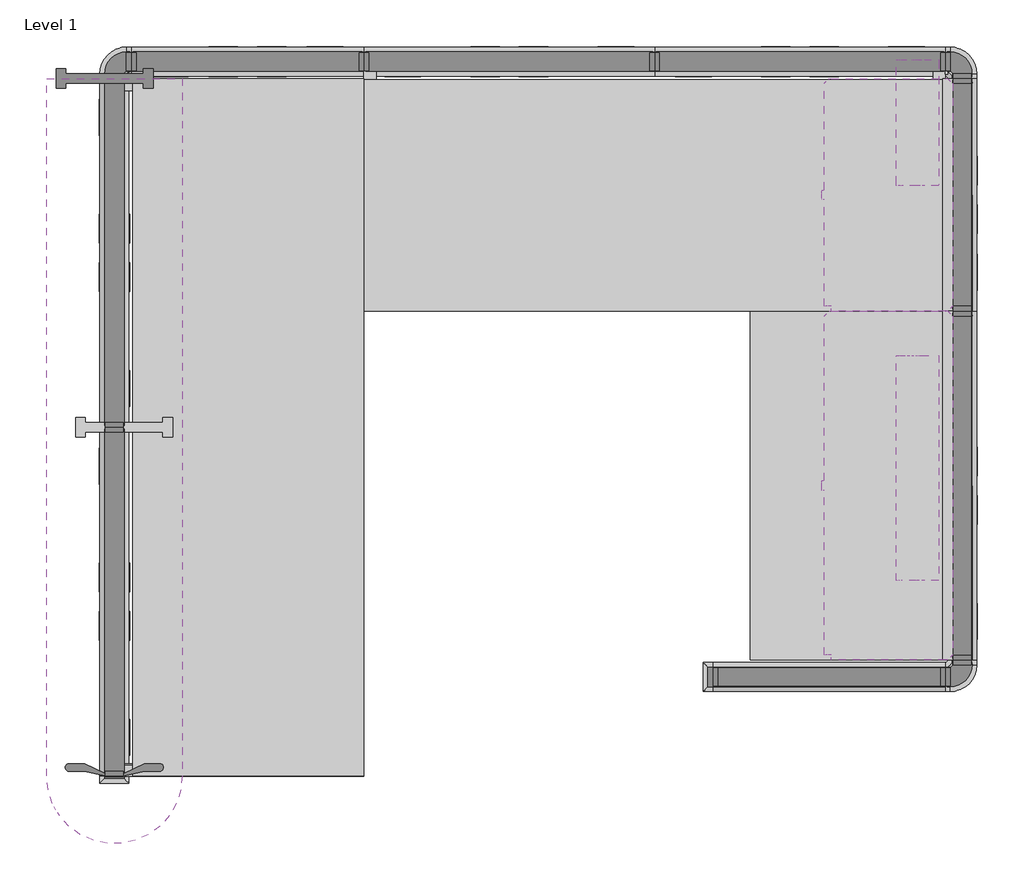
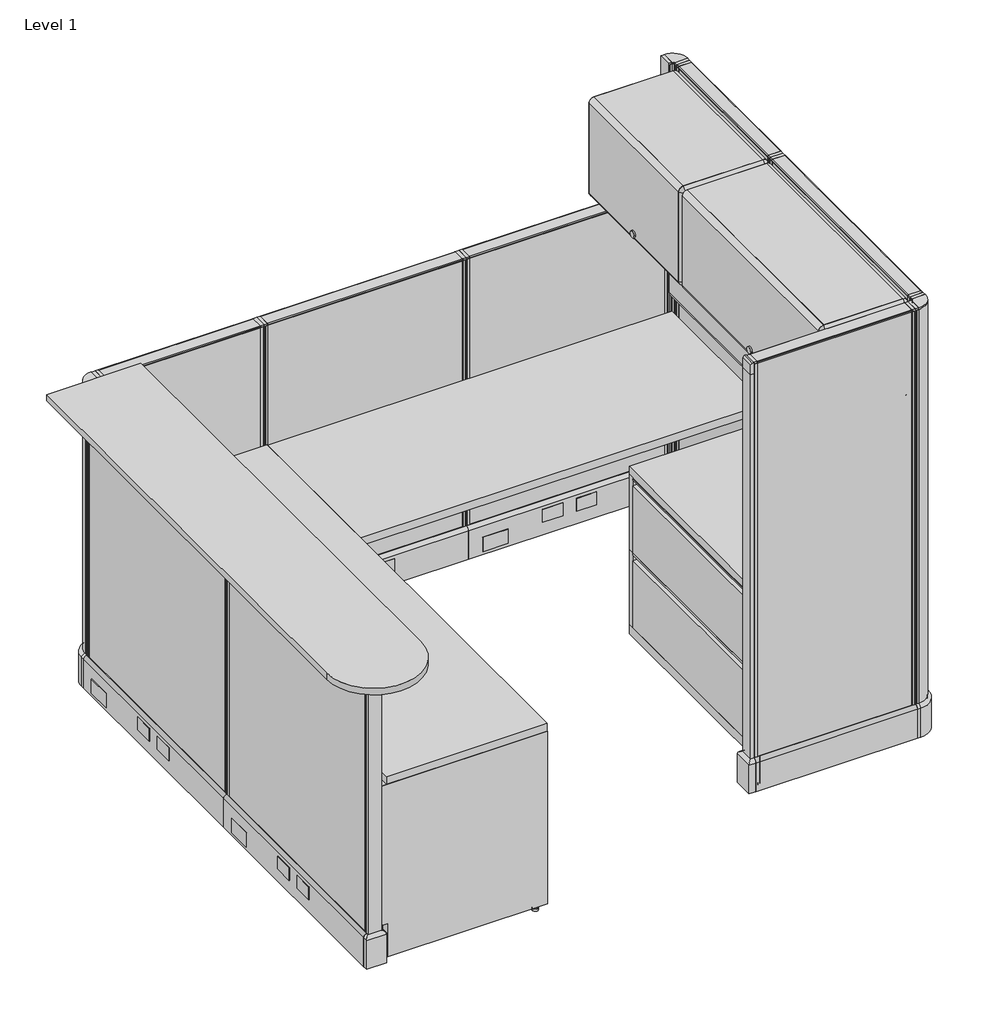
# One storey, incomplete: 27 furniture elements, 2 light fixtures.
"""IFC4 building model written with IfcOpenShell, lengths in millimetres."""

from ifc_helpers import new_model, si_unit, origin, place, context, project, spatial, transform, mapped, element, save
from components import furniture_84c54a78, furniture_aedcea9c, furniture_d4c83d08, furniture_e3a1ffe6, furniture_98713a82, furniture_8e6c5b72, furniture_457a0db2, furniture_a96273da, furniture_f3dbc57d, furniture_d2704b84, furniture_0d49a17f, furniture_54f79333, furniture_061b7ed1, furniture_2925ff6b, furniture_d54c757f, furniture_14b2469c, furniture_b7c7402d, furniture_d2009061, furniture_3c70095f, furniture_3045a4df, furniture_5c2546f9, furniture_ba981915, center_1fdd12aa, mid_end_35fd1d4e, light_fixture_0c34e72c, light_fixture_9998b344

model = new_model("IFC4")

# Units and contexts
model_context = context("Model", 3, world=origin())
ifc_project = project(units=[si_unit("LENGTHUNIT", "METRE", prefix="MILLI")], contexts=[model_context])

# Site, building, storey
site = spatial("IfcSite", under=ifc_project)
building = spatial("IfcBuilding", under=site)
storey = spatial("IfcBuildingStorey", under=building, Name="Level 1", Elevation=0.0)

# Furniture
placement = place(None, origin())
furniture_shape = furniture_84c54a78(model_context)
element("IfcFurniture", 1, ObjectType="HermanMiller_QuadrantFiling_G5111_MobilePedestal : 21-1/2\"H x 20\"D x 15\"W BF", at=placement, inside=storey, context=model_context, shape_type="MappedRepresentation", body=[
    mapped(furniture_shape, transform((337.6085008, -1568.4863268, 0.0), x_axis=(-3.6732051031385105e-06, 0.9999999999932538, 0.0), y_axis=(-0.9999999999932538, -3.6732051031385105e-06, 0.0), z_axis=(0.0, 0.0, 1.0))),
])
furniture_2_shape = furniture_aedcea9c(model_context)
element("IfcFurniture", 2, ObjectType="HermanMiller_ActionOffice_A1110_Hard-SurfacedPanelStandardBase : 47\"H x 24\"W-G", at=placement, inside=storey, context=model_context, shape_type="MappedRepresentation", body=[
    mapped(furniture_2_shape, transform((304.8, 43.9955412, 0.0), x_axis=(1.0, 0.0, 0.0), y_axis=(0.0, 1.0, 0.0), z_axis=(0.0, 0.0, 1.0))),
])
furniture_3_shape = furniture_d4c83d08(model_context)
element("IfcFurniture", 3, ObjectType="HermanMiller_ActionOffice_A1110_Hard-SurfacedPanelStandardBase : 47\"H x 30\"W-G", at=placement, inside=storey, context=model_context, shape_type="MappedRepresentation", body=[
    mapped(furniture_3_shape, transform((990.6, 43.9955412, 0.0), x_axis=(1.0, 0.0, 0.0), y_axis=(0.0, 1.0, 0.0), z_axis=(0.0, 0.0, 1.0))),
])
element("IfcFurniture", 4, ObjectType="HermanMiller_ActionOffice_A1110_Hard-SurfacedPanelStandardBase : 47\"H x 30\"W-G", at=placement, inside=storey, context=model_context, shape_type="MappedRepresentation", body=[
    mapped(furniture_3_shape, transform((1752.6, 43.9955412, 0.0), x_axis=(1.0, 0.0, 0.0), y_axis=(0.0, 1.0, 0.0), z_axis=(0.0, 0.0, 1.0))),
])
furniture_4_shape = furniture_e3a1ffe6(model_context)
element("IfcFurniture", 5, ObjectType="HermanMiller_ActionOffice_A1110_Hard-SurfacedPanelStandardBase : 47\"H x 36\"W-G", at=placement, inside=storey, context=model_context, shape_type="MappedRepresentation", body=[
    mapped(furniture_4_shape, transform((-44.4516794, -1372.0543655, 0.0), x_axis=(-3.6732051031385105e-06, 0.9999999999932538, 0.0), y_axis=(-0.9999999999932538, -3.6732051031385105e-06, 0.0), z_axis=(0.0, 0.0, 1.0))),
])
element("IfcFurniture", 6, ObjectType="HermanMiller_ActionOffice_A1110_Hard-SurfacedPanelStandardBase : 47\"H x 36\"W-G", at=placement, inside=storey, context=model_context, shape_type="MappedRepresentation", body=[
    mapped(furniture_4_shape, transform((-44.4516794, -457.6543655, 0.0), x_axis=(-3.6732051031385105e-06, 0.9999999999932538, 0.0), y_axis=(-0.9999999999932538, -3.6732051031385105e-06, 0.0), z_axis=(0.0, 0.0, 1.0))),
])
furniture_5_shape = furniture_98713a82(model_context)
element("IfcFurniture", 7, ObjectType="HermanMiller_ActionOffice_A1110_Hard-SurfacedPanelStandardBase : 67\"H x 24\"W-G", at=placement, inside=storey, context=model_context, shape_type="MappedRepresentation", body=[
    mapped(furniture_5_shape, transform((2178.0533588, -305.2547387, 0.0), x_axis=(1.1019615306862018e-05, -0.9999999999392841, 0.0), y_axis=(0.9999999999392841, 1.1019615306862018e-05, 0.0), z_axis=(0.0, 0.0, 1.0))),
])
furniture_6_shape = furniture_8e6c5b72(model_context)
element("IfcFurniture", 8, ObjectType="HermanMiller_ActionOffice_A1110_Hard-SurfacedPanelStandardBase : 67\"H x 24\"W-N", at=placement, inside=storey, context=model_context, shape_type="MappedRepresentation", body=[
    mapped(furniture_6_shape, transform((1828.7998134, -1569.7036236, 0.0), x_axis=(-0.999999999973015, -7.3464084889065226e-06, 0.0), y_axis=(7.3464084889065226e-06, -0.999999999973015, 0.0), z_axis=(0.0, 0.0, 1.0))),
])
furniture_7_shape = furniture_457a0db2(model_context)
element("IfcFurniture", 9, ObjectType="HermanMiller_ActionOffice_A1110_Hard-SurfacedPanelStandardBase : 67\"H x 36\"W-G", at=placement, inside=storey, context=model_context, shape_type="MappedRepresentation", body=[
    mapped(furniture_7_shape, transform((2178.0550382, -1068.0522987, 0.0), x_axis=(1.1019615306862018e-05, -0.9999999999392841, 0.0), y_axis=(0.9999999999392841, 1.1019615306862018e-05, 0.0), z_axis=(0.0, 0.0, 1.0))),
])
furniture_8_shape = furniture_a96273da(model_context)
element("IfcFurniture", 10, ObjectType="HermanMiller_ActionOffice_A2310_Sq-EdgeRectangularWorkSurface : 24\"D x 60\"W", at=placement, inside=storey, context=model_context, shape_type="MappedRepresentation", body=[
    mapped(furniture_8_shape, transform((1371.6, -295.7294588, 0.0), x_axis=(1.0, 0.0, 0.0), y_axis=(0.0, 1.0, 0.0), z_axis=(0.0, 0.0, 1.0))),
])
furniture_9_shape = furniture_f3dbc57d(model_context)
element("IfcFurniture", 11, ObjectType="HermanMiller_ActionOffice_A2310_Sq-EdgeRectangularWorkSurface : 24\"D x 72\"W", at=placement, inside=storey, context=model_context, shape_type="MappedRepresentation", body=[
    mapped(furniture_9_shape, transform((295.2716412, -914.8533042, 0.0), x_axis=(-3.6732051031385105e-06, 0.9999999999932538, 0.0), y_axis=(-0.9999999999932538, -3.6732051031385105e-06, 0.0), z_axis=(0.0, 0.0, 1.0))),
])
furniture_10_shape = furniture_d2704b84(model_context)
element("IfcFurniture", 12, ObjectType="HermanMiller_ActionOffice_A2820_Sq-EdgeTransactionSurfaceRoundRectEnd : 14\"D x 79\"W", at=placement, inside=storey, context=model_context, shape_type="MappedRepresentation", body=[
    mapped(furniture_10_shape, transform((-231.7809245, -216.3550536, 0.0), x_axis=(-3.6732051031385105e-06, 0.9999999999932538, 0.0), y_axis=(-0.9999999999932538, -3.6732051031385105e-06, 0.0), z_axis=(0.0, 0.0, 1.0))),
])
furniture_11_shape = furniture_0d49a17f(model_context)
element("IfcFurniture", 13, ObjectType="HermanMiller_ActionOffice_A3352_B-StyleFlipperDoorUnit : 15 1/2\"H x 13\"D x 24\"W", at=placement, inside=storey, context=model_context, shape_type="MappedRepresentation", body=[
    mapped(furniture_11_shape, transform((1971.6783588, -305.2564531, 0.0), x_axis=(1.1019615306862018e-05, -0.9999999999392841, 0.0), y_axis=(0.9999999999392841, 1.1019615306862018e-05, 0.0), z_axis=(0.0, 0.0, 1.0))),
])
furniture_12_shape = furniture_54f79333(model_context)
element("IfcFurniture", 14, ObjectType="HermanMiller_ActionOffice_A3352_B-StyleFlipperDoorUnit : 15 1/2\"H x 13\"D x 36\"W", at=placement, inside=storey, context=model_context, shape_type="MappedRepresentation", body=[
    mapped(furniture_12_shape, transform((1971.6800382, -1067.256453, 0.0), x_axis=(1.1019615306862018e-05, -0.9999999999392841, 0.0), y_axis=(0.9999999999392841, 1.1019615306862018e-05, 0.0), z_axis=(0.0, 0.0, 1.0))),
])
furniture_13_shape = furniture_061b7ed1(model_context)
element("IfcFurniture", 15, ObjectType="HermanMiller_ActionOffice_A3410_B-StyleTackboard : 16\"H x 24\"W", at=placement, inside=storey, context=model_context, shape_type="MappedRepresentation", body=[
    mapped(furniture_13_shape, transform((2139.9533588, -305.2545987, 0.0), x_axis=(1.1019615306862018e-05, -0.9999999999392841, 0.0), y_axis=(0.9999999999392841, 1.1019615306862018e-05, 0.0), z_axis=(0.0, 0.0, 1.0))),
])
furniture_14_shape = furniture_2925ff6b(model_context)
element("IfcFurniture", 16, ObjectType="HermanMiller_ActionOffice_A3410_B-StyleTackboard : 16\"H x 36\"W", at=placement, inside=storey, context=model_context, shape_type="MappedRepresentation", body=[
    mapped(furniture_14_shape, transform((2139.9550382, -1067.2545987, 0.0), x_axis=(1.1019615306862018e-05, -0.9999999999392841, 0.0), y_axis=(0.9999999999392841, 1.1019615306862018e-05, 0.0), z_axis=(0.0, 0.0, 1.0))),
])
furniture_15_shape = furniture_d54c757f(model_context)
element("IfcFurniture", 17, ObjectType="HermanMiller_ThrivePortfolio_Y5010_PencilDrawer : 2\"H x 16\"D x 21\"W", at=placement, inside=storey, context=model_context, shape_type="MappedRepresentation", body=[
    mapped(furniture_15_shape, transform((400.0363612, -979.1832569, 0.0), x_axis=(-3.6732051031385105e-06, 0.9999999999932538, 0.0), y_axis=(-0.9999999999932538, -3.6732051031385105e-06, 0.0), z_axis=(0.0, 0.0, 1.0))),
])
furniture_16_shape = furniture_14b2469c(model_context)
element("IfcFurniture", 18, ObjectType="HermanMiller_MeridianFiling_26_Standard-PullFreeStandingLateralFile : 2 11 3/4H x 20D x 36W", at=placement, inside=storey, context=model_context, shape_type="MappedRepresentation", body=[
    mapped(furniture_16_shape, transform((1876.6662582, -1068.0548178, 0.0), x_axis=(1.1019615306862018e-05, -0.9999999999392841, 0.0), y_axis=(0.9999999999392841, 1.1019615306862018e-05, 0.0), z_axis=(0.0, 0.0, 1.0))),
])
furniture_17_shape = furniture_b7c7402d(model_context)
element("IfcFurniture", 19, ObjectType="HermanMiller_ActionOffice_A2380_WorkSuraceSupportPanelEnd : 24\"D", at=placement, inside=storey, context=model_context, shape_type="MappedRepresentation", body=[
    mapped(furniture_17_shape, transform((609.6, -1830.5221496, 0.0), x_axis=(-3.6732051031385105e-06, 0.9999999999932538, 0.0), y_axis=(-0.9999999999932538, -3.6732051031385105e-06, 0.0), z_axis=(0.0, 0.0, 1.0))),
])
furniture_18_shape = furniture_d2009061(model_context)
element("IfcFurniture", 20, ObjectType="HermanMiller_ActionOffice_AO259_AO272_FinishedEndChangeOfHeight : 32\"H Panel/Conn", at=placement, inside=storey, context=model_context, shape_type="MappedRepresentation", body=[
    mapped(furniture_18_shape, transform((2200.4709967, -42.439295, 0.0), x_axis=(1.0, 0.0, 0.0), y_axis=(0.0, 1.0, 0.0), z_axis=(0.0, 0.0, 1.0))),
])
furniture_19_shape = furniture_3c70095f(model_context)
element("IfcFurniture", 21, ObjectType="HermanMiller_ActionOffice_A1220_90ConnectorStandardBase : 47\"H 2-Way-Hard", at=placement, inside=storey, context=model_context, shape_type="MappedRepresentation", body=[
    mapped(furniture_19_shape, transform((-29.9361986, 37.6456878, 0.0), x_axis=(-3.6732051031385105e-06, 0.9999999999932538, 0.0), y_axis=(-0.9999999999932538, -3.6732051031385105e-06, 0.0), z_axis=(0.0, 0.0, 1.0))),
])
furniture_20_shape = furniture_3045a4df(model_context)
element("IfcFurniture", 22, ObjectType="HermanMiller_ActionOffice_A1271_FinishedEndStandardBase : 47\"H Trans End Spt", at=placement, inside=storey, context=model_context, shape_type="MappedRepresentation", body=[
    mapped(furniture_20_shape, transform((2404.2669152, 161.9782965, 0.0), x_axis=(1.1019615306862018e-05, -0.9999999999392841, 0.0), y_axis=(0.9999999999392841, 1.1019615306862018e-05, 0.0), z_axis=(0.0, 0.0, 1.0))),
])
furniture_21_shape = furniture_5c2546f9(model_context)
element("IfcFurniture", 23, ObjectType="HermanMiller_ActionOffice_A1271_FinishedEndStandardBase : 67\"H", at=placement, inside=storey, context=model_context, shape_type="MappedRepresentation", body=[
    mapped(furniture_21_shape, transform((3508.873854, -4018.4255905, 0.0), x_axis=(-0.999999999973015, -7.3464084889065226e-06, 0.0), y_axis=(7.3464084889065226e-06, -0.999999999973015, 0.0), z_axis=(0.0, 0.0, 1.0))),
])
furniture_22_shape = furniture_ba981915(model_context)
element("IfcFurniture", 24, ObjectType="HermanMiller_ActionOffice_A1220_90ConnectorStandardBase : 67\"H 2-Way-Hard", at=placement, inside=storey, context=model_context, shape_type="MappedRepresentation", body=[
    mapped(furniture_22_shape, transform((2163.5364785, -1563.3524586, 0.0), x_axis=(1.1019615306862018e-05, -0.9999999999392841, 0.0), y_axis=(0.9999999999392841, 1.1019615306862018e-05, 0.0), z_axis=(0.0, 0.0, 1.0))),
])
element("IfcFurniture", 25, ObjectType="HermanMiller_ActionOffice_A1220_90ConnectorStandardBase : 67\"H 2-Way-Hard", at=placement, inside=storey, context=model_context, shape_type="MappedRepresentation", body=[
    mapped(furniture_22_shape, transform((2171.7, 29.4815998, 0.0), x_axis=(1.0, 0.0, 0.0), y_axis=(0.0, 1.0, 0.0), z_axis=(0.0, 0.0, 1.0))),
])
center_shape = center_1fdd12aa(model_context)
element("IfcFurniture", 26, ObjectType="HermanMiller_ActionOffice_AO460-AO464_TransactionSurfaceSupport : Center", at=placement, inside=storey, context=model_context, shape_type="MappedRepresentation", body=[
    mapped(center_shape, transform((-9.5418872, 634.5456461, 0.0), x_axis=(1.1019615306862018e-05, -0.9999999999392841, 0.0), y_axis=(0.9999999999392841, 1.1019615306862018e-05, 0.0), z_axis=(0.0, 0.0, 1.0))),
])
mid_end_shape = mid_end_35fd1d4e(model_context)
element("IfcFurniture", 27, ObjectType="HermanMiller_ActionOffice_AO460-AO464_TransactionSurfaceSupport : Mid-End", at=placement, inside=storey, context=model_context, shape_type="MappedRepresentation", body=[
    mapped(mid_end_shape, transform((-79.3726675, -1549.8544938, 0.0), x_axis=(-3.6732051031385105e-06, 0.9999999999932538, 0.0), y_axis=(-0.9999999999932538, -3.6732051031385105e-06, 0.0), z_axis=(0.0, 0.0, 1.0))),
])

# Light fixtures
light_fixture_shape = light_fixture_0c34e72c(model_context)
element("IfcLightFixture", 28, ObjectType="HermanMiller_SupplementalProducts_G6136_UtilityTaskLight : AO Etho Canvas 24W", at=placement, inside=storey, context=model_context, shape_type="MappedRepresentation", body=[
    mapped(light_fixture_shape, transform((2060.5769971, -115.5530334, 0.0), x_axis=(1.1019615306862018e-05, -0.9999999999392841, 0.0), y_axis=(0.9999999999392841, 1.1019615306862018e-05, 0.0), z_axis=(0.0, 0.0, 1.0))),
])
light_fixture_2_shape = light_fixture_9998b344(model_context)
element("IfcLightFixture", 29, ObjectType="HermanMiller_SupplementalProducts_G6136_UtilityTaskLight : AO Etho Canvas 30W", at=placement, inside=storey, context=model_context, shape_type="MappedRepresentation", body=[
    mapped(light_fixture_2_shape, transform((2060.578433, -1021.3180741, 0.0), x_axis=(1.1019615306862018e-05, -0.9999999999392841, 0.0), y_axis=(0.9999999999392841, 1.1019615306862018e-05, 0.0), z_axis=(0.0, 0.0, 1.0))),
])

save(model, "model.ifc")
